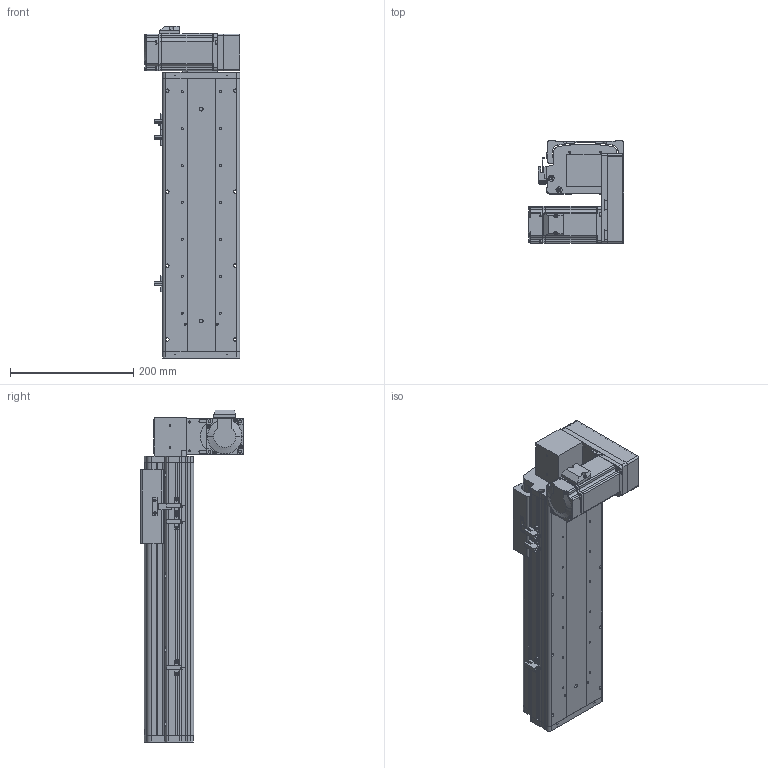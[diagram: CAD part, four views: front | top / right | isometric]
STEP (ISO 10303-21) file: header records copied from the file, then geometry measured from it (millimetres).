
FILE_DESCRIPTION (( 'STEP AP214' ), '1' );
FILE_NAME ('KSD125B-S250-MLD-CM.STEP', '2017-10-21T02:11:46', ( '微软用户' ), ( '微软中国' ), 'SwSTEP 2.0', 'SolidWorks 2014', '' );
FILE_SCHEMA (( 'AUTOMOTIVE_DESIGN' ));
Length unit declared in the file: millimetre
Products named in the file (17): KSD125模组同步带-防撞垫1; 前端板-125宽模组同步带; 125模组同步带-尾端板1; KSD125模组同步带-滑动座1; KSD125B-S250-MLD-CM; 悵誘欶奻狟殏; 100宽马达安装板连板上下折丝杆同步带; HTPA30S3M150_A_H6_a佪裝蚚; HTPA30S3M150_A_H6_a萇儂蚚; 100宽马达安装板同步带左; KSD125模组250行程同步带-防尘盖; 125模组250行程同步带-底板; MHMD042G1CA_2_03; KSD125模组同步带-防撞垫2; 覜茼え68遵圉猾敕; U倰嫖萇假蚾璃; U倰嫖萇EEㄜSX672
Assembly tree (20 placements, depth 2):
  KSD125B-S250-MLD-CM
    KSD125模组同步带-滑动座1
    125模组同步带-尾端板1
    前端板-125宽模组同步带
    KSD125模组同步带-防撞垫1
    U倰嫖萇EEㄜSX672  x3
    U倰嫖萇假蚾璃  x3
    覜茼え68遵圉猾敕
    KSD125模组同步带-防撞垫2
    MHMD042G1CA_2_03
    125模组250行程同步带-底板
    KSD125模组250行程同步带-防尘盖
    100宽马达安装板同步带左
    HTPA30S3M150_A_H6_a萇儂蚚
    HTPA30S3M150_A_H6_a佪裝蚚
    100宽马达安装板连板上下折丝杆同步带
    悵誘欶奻狟殏
Bounding box: 155 x 166.5 x 539 mm (x, y, z)
Volume: 1924461.6 mm3; surface area: 689247.3 mm2
Topology: 19 solids, 22 shells, 2203 faces, 6373 edges, 4210 vertices
Faces by surface type: cylinder 1360, plane 716, cone 105, bspline 22
Entity records: 77843 total; most frequent: CARTESIAN_POINT 15411, DIRECTION 12114, ORIENTED_EDGE 11266, EDGE_CURVE 5711, AXIS2_PLACEMENT_3D 4665, VERTEX_POINT 3802, LINE 2784, VECTOR 2784
